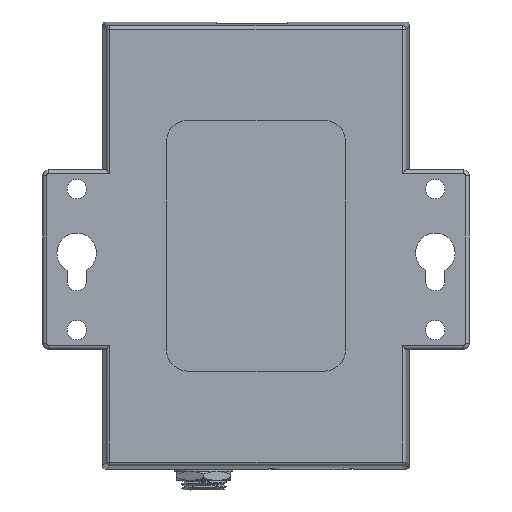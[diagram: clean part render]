
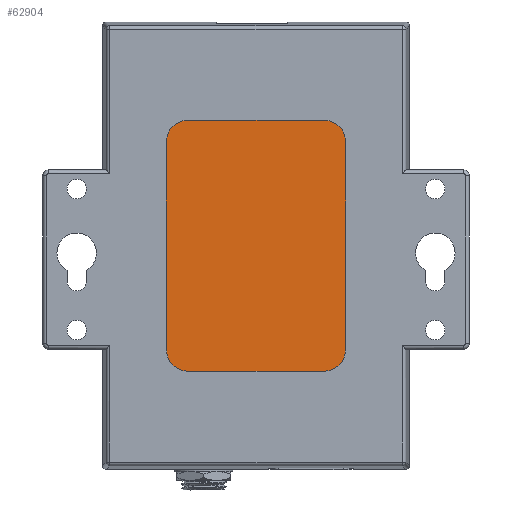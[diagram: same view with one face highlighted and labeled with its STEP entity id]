
A CAD part, front view. The second image highlights one B-rep face of the part: STEP entity #62904.
In plain terms, the highlighted planar face has unit normal (0, -1, 0) as drawn and (0, 1, 0) by its records, which use the part's own axes.
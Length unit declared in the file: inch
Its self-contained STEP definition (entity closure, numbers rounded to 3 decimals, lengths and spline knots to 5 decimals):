
#977 = AXIS2_PLACEMENT_3D ( 'NONE', #6247, #41210, #11261 ) ;
#1066 = CARTESIAN_POINT ( 'NONE',  ( 1.25, 0.01, -1.6 ) ) ;
#2295 = CARTESIAN_POINT ( 'NONE',  ( 0., 0.01, -0.15 ) ) ;
#2463 = VECTOR ( 'NONE', #12943, 39.37008 ) ;
#3578 = CARTESIAN_POINT ( 'NONE',  ( 0., 0.01, 0. ) ) ;
#5492 = VERTEX_POINT ( 'NONE', #37422 ) ;
#6247 = CARTESIAN_POINT ( 'NONE',  ( 0.15, 0.01, -1.6 ) ) ;
#7244 = AXIS2_PLACEMENT_3D ( 'NONE', #11685, #46701, #16781 ) ;
#7494 = ORIENTED_EDGE ( 'NONE', *, *, #46403, .T. ) ;
#8026 = EDGE_CURVE ( 'NONE', #31876, #40865, #18956, .T. ) ;
#10614 = VERTEX_POINT ( 'NONE', #1066 ) ;
#10972 = FACE_OUTER_BOUND ( 'NONE', #17753, .T. ) ;
#11124 = LINE ( 'NONE', #16114, #37713 ) ;
#11261 = DIRECTION ( 'NONE',  ( 0., 0., -1. ) ) ;
#11323 = EDGE_CURVE ( 'NONE', #40865, #44046, #29235, .T. ) ;
#11685 = CARTESIAN_POINT ( 'NONE',  ( 0.15, 0.01, -0.15 ) ) ;
#12943 = DIRECTION ( 'NONE',  ( 0., 0., 1. ) ) ;
#13624 = DIRECTION ( 'NONE',  ( 0., 0., -1. ) ) ;
#15065 = AXIS2_PLACEMENT_3D ( 'NONE', #18134, #53017, #23126 ) ;
#15922 = EDGE_CURVE ( 'NONE', #22930, #5492, #11124, .T. ) ;
#16114 = CARTESIAN_POINT ( 'NONE',  ( 0., 0.01, -1.75 ) ) ;
#16781 = DIRECTION ( 'NONE',  ( 0., 0., -1. ) ) ;
#17623 = EDGE_CURVE ( 'NONE', #44046, #23128, #23255, .T. ) ;
#17753 = EDGE_LOOP ( 'NONE', ( #18733, #7494, #46719, #17791, #18769, #35607, #42055, #35680 ) ) ;
#17791 = ORIENTED_EDGE ( 'NONE', *, *, #11323, .T. ) ;
#18134 = CARTESIAN_POINT ( 'NONE',  ( 1.1, 0.01, -0.15 ) ) ;
#18733 = ORIENTED_EDGE ( 'NONE', *, *, #15922, .T. ) ;
#18768 = EDGE_CURVE ( 'NONE', #10614, #22930, #31163, .T. ) ;
#18769 = ORIENTED_EDGE ( 'NONE', *, *, #17623, .T. ) ;
#18956 = LINE ( 'NONE', #42935, #2463 ) ;
#21576 = DIRECTION ( 'NONE',  ( 1., 0., 0. ) ) ;
#22930 = VERTEX_POINT ( 'NONE', #63675 ) ;
#23126 = DIRECTION ( 'NONE',  ( 0., 0., -1. ) ) ;
#23128 = VERTEX_POINT ( 'NONE', #25480 ) ;
#23181 = VERTEX_POINT ( 'NONE', #40742 ) ;
#23255 = LINE ( 'NONE', #61474, #35009 ) ;
#25480 = CARTESIAN_POINT ( 'NONE',  ( 1.1, 0.01, 0. ) ) ;
#25804 = CARTESIAN_POINT ( 'NONE',  ( 0., 0.01, -1.6 ) ) ;
#28454 = DIRECTION ( 'NONE',  ( 0., 1., 0. ) ) ;
#29235 = CIRCLE ( 'NONE', #7244, 0.15 ) ;
#31163 = CIRCLE ( 'NONE', #47195, 0.15 ) ;
#31876 = VERTEX_POINT ( 'NONE', #25804 ) ;
#32286 = LINE ( 'NONE', #44204, #55671 ) ;
#35009 = VECTOR ( 'NONE', #21576, 39.37008 ) ;
#35607 = ORIENTED_EDGE ( 'NONE', *, *, #38744, .T. ) ;
#35680 = ORIENTED_EDGE ( 'NONE', *, *, #18768, .T. ) ;
#37422 = CARTESIAN_POINT ( 'NONE',  ( 0.15, 0.01, -1.75 ) ) ;
#37713 = VECTOR ( 'NONE', #61246, 39.37008 ) ;
#38744 = EDGE_CURVE ( 'NONE', #23128, #23181, #48652, .T. ) ;
#40742 = CARTESIAN_POINT ( 'NONE',  ( 1.25, 0.01, -0.15 ) ) ;
#40865 = VERTEX_POINT ( 'NONE', #2295 ) ;
#41210 = DIRECTION ( 'NONE',  ( 0., 1., 0. ) ) ;
#42055 = ORIENTED_EDGE ( 'NONE', *, *, #50698, .T. ) ;
#42935 = CARTESIAN_POINT ( 'NONE',  ( 0., 0.01, 0. ) ) ;
#43157 = DIRECTION ( 'NONE',  ( 0., -1., 0. ) ) ;
#43600 = PLANE ( 'NONE',  #54099 ) ;
#44046 = VERTEX_POINT ( 'NONE', #45897 ) ;
#44204 = CARTESIAN_POINT ( 'NONE',  ( 1.25, 0.01, 0. ) ) ;
#45897 = CARTESIAN_POINT ( 'NONE',  ( 0.15, 0.01, 0. ) ) ;
#46403 = EDGE_CURVE ( 'NONE', #5492, #31876, #60198, .T. ) ;
#46701 = DIRECTION ( 'NONE',  ( 0., 1., 0. ) ) ;
#46719 = ORIENTED_EDGE ( 'NONE', *, *, #8026, .T. ) ;
#47195 = AXIS2_PLACEMENT_3D ( 'NONE', #58346, #28454, #63347 ) ;
#48652 = CIRCLE ( 'NONE', #15065, 0.15 ) ;
#50698 = EDGE_CURVE ( 'NONE', #23181, #10614, #32286, .T. ) ;
#53017 = DIRECTION ( 'NONE',  ( 0., 1., 0. ) ) ;
#54099 = AXIS2_PLACEMENT_3D ( 'NONE', #3578, #43157, #13624 ) ;
#55671 = VECTOR ( 'NONE', #59221, 39.37008 ) ;
#58346 = CARTESIAN_POINT ( 'NONE',  ( 1.1, 0.01, -1.6 ) ) ;
#59221 = DIRECTION ( 'NONE',  ( 0., 0., -1. ) ) ;
#60198 = CIRCLE ( 'NONE', #977, 0.15 ) ;
#61246 = DIRECTION ( 'NONE',  ( -1., 0., 0. ) ) ;
#61474 = CARTESIAN_POINT ( 'NONE',  ( 0., 0.01, 0. ) ) ;
#62904 = ADVANCED_FACE ( 'NONE', ( #10972 ), #43600, .F. ) ;
#63347 = DIRECTION ( 'NONE',  ( 0., 0., -1. ) ) ;
#63675 = CARTESIAN_POINT ( 'NONE',  ( 1.1, 0.01, -1.75 ) ) ;
